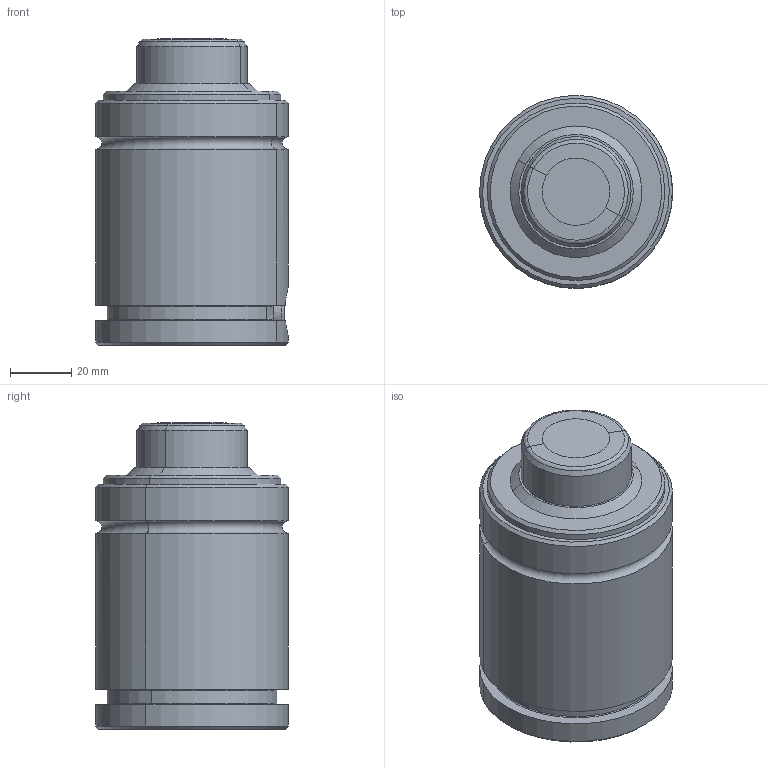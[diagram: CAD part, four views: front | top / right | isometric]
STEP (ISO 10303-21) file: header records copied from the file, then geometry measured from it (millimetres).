
FILE_DESCRIPTION(('CATIA V5 STEP Exchange'),'2;1');
FILE_NAME('W:\CATALOGO GENERAL 2018\FICHEROS CAD\006-TPF\TPFS 3000\TPFS 3000x15.stp','2017-11-21T15:08:17+00:00',('none'),('none'),'CATIA Version 5 Release 17 (IN-10)','CATIA V5 STEP AP203','none');
FILE_SCHEMA(('CONFIG_CONTROL_DESIGN'));
Length unit declared in the file: millimetre
Products named in the file (1): TPFS 3000x15
Assembly tree (3 placements, depth 2):
  TPFS 3000x15
    #56
    #547
    #2116
Bounding box: 62.99 x 62.98 x 100 mm (x, y, z)
Volume: 332437.2 mm3; surface area: 43077.6 mm2
Topology: 4 solids, 4 shells, 153 faces, 334 edges, 191 vertices
Faces by surface type: cone 56, cylinder 37, torus 36, plane 24
Entity records: 3857 total; most frequent: CARTESIAN_POINT 777, ORIENTED_EDGE 656, DIRECTION 500, EDGE_CURVE 328, AXIS2_PLACEMENT_3D 291, VERTEX_POINT 191, CIRCLE 190, EDGE_LOOP 165
